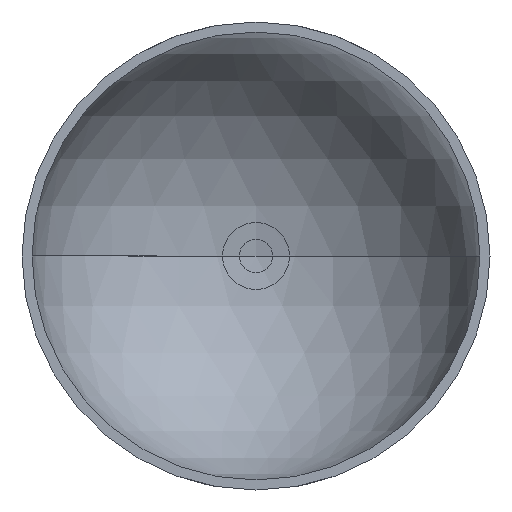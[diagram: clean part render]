
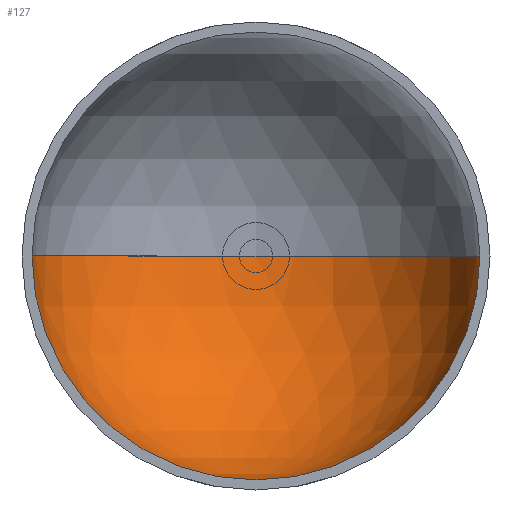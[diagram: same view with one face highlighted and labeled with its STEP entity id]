
A CAD part, front view. The second image highlights one B-rep face of the part: STEP entity #127.
In plain terms, the highlighted spherical face has radius 67 mm.
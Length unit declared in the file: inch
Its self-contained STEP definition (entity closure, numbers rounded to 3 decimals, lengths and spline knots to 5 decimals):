
#5 = AXIS2_PLACEMENT_3D ( 'NONE', #267, #419, #167 ) ;
#23 = DIRECTION ( 'NONE',  ( 0., 0., 1. ) ) ;
#40 = CIRCLE ( 'NONE', #470, 2.6378 ) ;
#63 = CARTESIAN_POINT ( 'NONE',  ( -2.6378, 5.11811, 0. ) ) ;
#71 = CARTESIAN_POINT ( 'NONE',  ( 0., 5.11811, 0. ) ) ;
#74 = FACE_OUTER_BOUND ( 'NONE', #102, .T. ) ;
#102 = EDGE_LOOP ( 'NONE', ( #487, #336, #542 ) ) ;
#127 = ADVANCED_FACE ( 'NONE', ( #74 ), #130, .F. ) ;
#130 = SPHERICAL_SURFACE ( 'NONE', #307, 2.6378 ) ;
#162 = EDGE_CURVE ( 'NONE', #237, #639, #40, .T. ) ;
#167 = DIRECTION ( 'NONE',  ( 1., 0., 0. ) ) ;
#229 = DIRECTION ( 'NONE',  ( 0., 0., 1. ) ) ;
#235 = CARTESIAN_POINT ( 'NONE',  ( 0., 7.75591, 0. ) ) ;
#237 = VERTEX_POINT ( 'NONE', #235 ) ;
#246 = DIRECTION ( 'NONE',  ( -1., 0., 0. ) ) ;
#267 = CARTESIAN_POINT ( 'NONE',  ( 0., 5.11811, 0. ) ) ;
#291 = DIRECTION ( 'NONE',  ( 0., 0., -1. ) ) ;
#307 = AXIS2_PLACEMENT_3D ( 'NONE', #521, #23, #433 ) ;
#318 = VERTEX_POINT ( 'NONE', #63 ) ;
#319 = DIRECTION ( 'NONE',  ( 1., 0., 0. ) ) ;
#336 = ORIENTED_EDGE ( 'NONE', *, *, #436, .T. ) ;
#404 = CARTESIAN_POINT ( 'NONE',  ( 2.6378, 5.11811, 0. ) ) ;
#410 = EDGE_CURVE ( 'NONE', #318, #639, #441, .T. ) ;
#419 = DIRECTION ( 'NONE',  ( 0., -1., 0. ) ) ;
#433 = DIRECTION ( 'NONE',  ( 1., 0., 0. ) ) ;
#436 = EDGE_CURVE ( 'NONE', #237, #318, #642, .T. ) ;
#441 = CIRCLE ( 'NONE', #5, 2.6378 ) ;
#470 = AXIS2_PLACEMENT_3D ( 'NONE', #497, #291, #246 ) ;
#487 = ORIENTED_EDGE ( 'NONE', *, *, #162, .F. ) ;
#497 = CARTESIAN_POINT ( 'NONE',  ( 0., 5.11811, 0. ) ) ;
#517 = AXIS2_PLACEMENT_3D ( 'NONE', #71, #229, #319 ) ;
#521 = CARTESIAN_POINT ( 'NONE',  ( 0., 5.11811, 0. ) ) ;
#542 = ORIENTED_EDGE ( 'NONE', *, *, #410, .T. ) ;
#639 = VERTEX_POINT ( 'NONE', #404 ) ;
#642 = CIRCLE ( 'NONE', #517, 2.6378 ) ;
